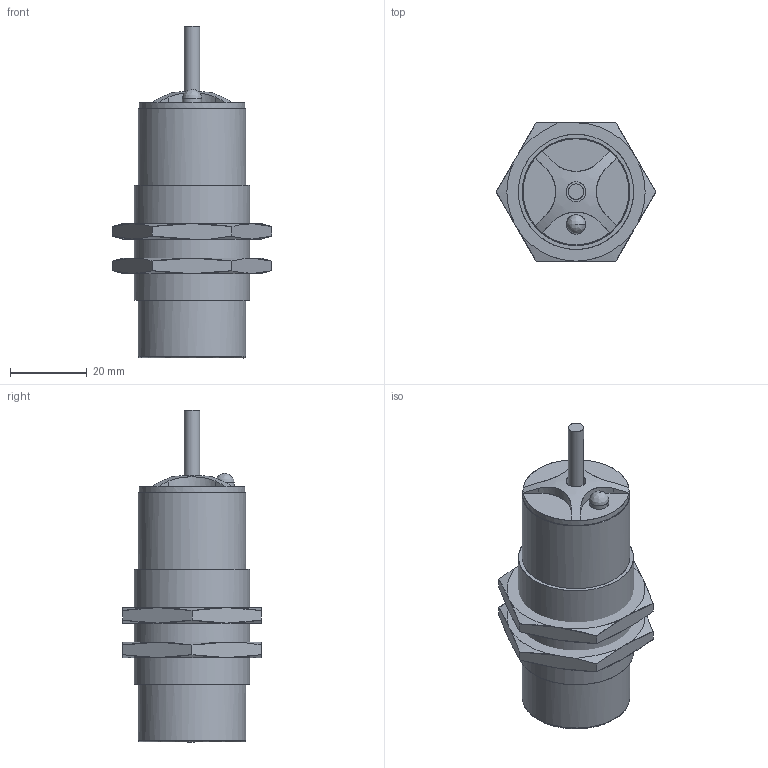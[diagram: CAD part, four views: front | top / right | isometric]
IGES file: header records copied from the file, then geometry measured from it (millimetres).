
Global section: file name: 3DCAD_IS130MM_1NO_15N.igs; native system: NX V2306; preprocessor: SIEMENS PLM Software NX2306.9180; date: 20250630.102651; units: millimetre
Bounding box: 41.57 x 36 x 86.5 mm (x, y, z)
Surface area: 11547.8 mm2 (no closed solid volume)
Topology: 0 solids, 0 shells, 76 faces, 729 edges, 718 vertices
Faces by surface type: bspline 76
